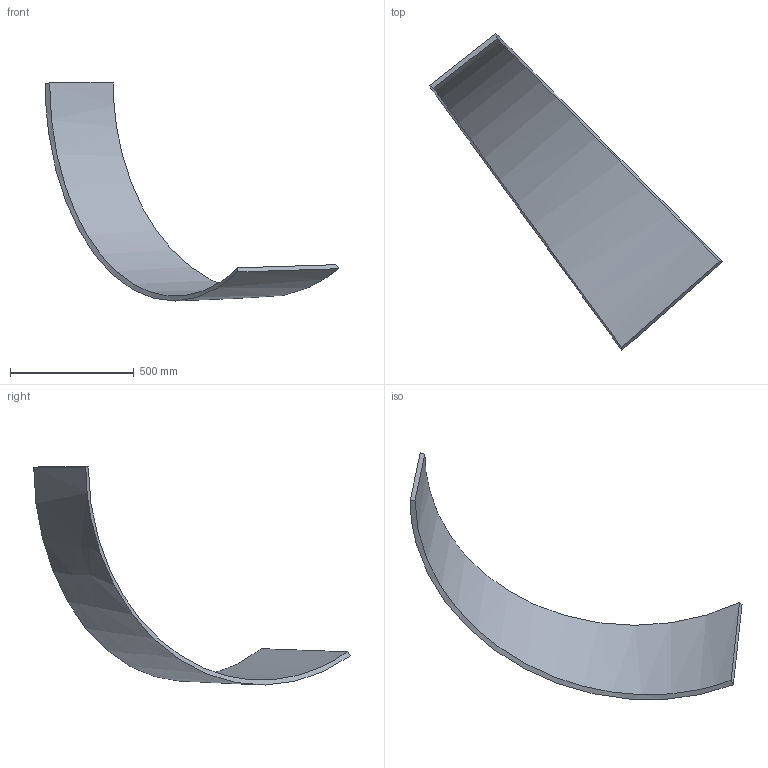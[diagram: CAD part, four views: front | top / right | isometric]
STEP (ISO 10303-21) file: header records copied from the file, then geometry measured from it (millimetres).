
FILE_DESCRIPTION (( 'STEP AP214' ), '1' );
FILE_NAME ('P9.2.STEP', '2025-01-09T19:43:29', ( '' ), ( '' ), 'SwSTEP 2.0', 'SolidWorks 2024', '' );
FILE_SCHEMA (( 'AUTOMOTIVE_DESIGN' ));
Length unit declared in the file: inch
Products named in the file (1): P9.2
Bounding box: 1184.71 x 1276.95 x 879.35 mm (x, y, z)
Volume: 14148720.9 mm3; surface area: 1577405.6 mm2
Topology: 1 solids, 1 shells, 6 faces, 12 edges, 8 vertices
Faces by surface type: bspline 6
Entity records: 1619 total; most frequent: CARTESIAN_POINT 1505, ORIENTED_EDGE 24, EDGE_CURVE 12, B_SPLINE_CURVE_WITH_KNOTS 12, VERTEX_POINT 8, B_SPLINE_SURFACE_WITH_KNOTS 6, ADVANCED_FACE 6, FACE_OUTER_BOUND 6
